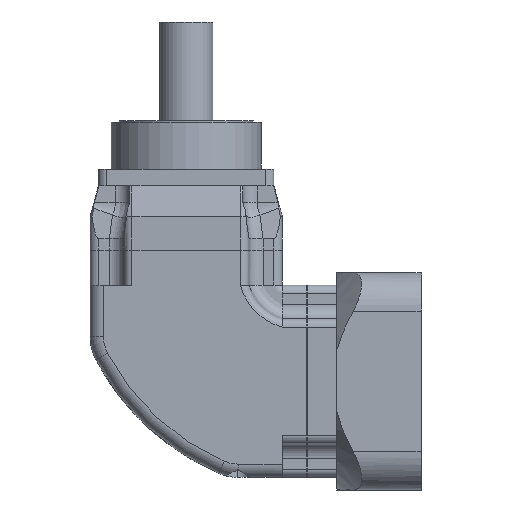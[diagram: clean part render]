
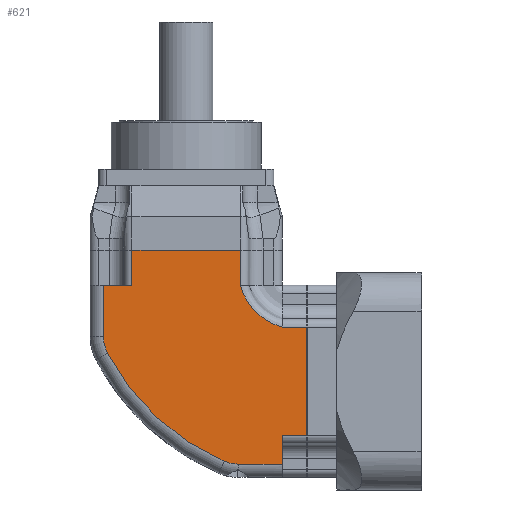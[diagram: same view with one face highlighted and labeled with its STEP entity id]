
A CAD part, left-side view. The second image highlights one B-rep face of the part: STEP entity #621.
In plain terms, the highlighted planar face has unit normal (-1, 0, 0).
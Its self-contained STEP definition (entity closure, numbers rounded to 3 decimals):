
#329 = ORIENTED_EDGE ( 'NONE', *, *, #3139, .T. ) ;
#508 = DIRECTION ( 'NONE',  ( 0., -1., 0. ) ) ;
#621 = ADVANCED_FACE ( 'NONE', ( #10091 ), #14825, .T. ) ;
#814 = VECTOR ( 'NONE', #6886, 1000. ) ;
#1027 = CARTESIAN_POINT ( 'NONE',  ( -57.5, -31.323, -49.5 ) ) ;
#1072 = AXIS2_PLACEMENT_3D ( 'NONE', #13883, #3243, #7968 ) ;
#1117 = VECTOR ( 'NONE', #2642, 1000. ) ;
#1134 = ORIENTED_EDGE ( 'NONE', *, *, #9071, .F. ) ;
#1262 = VERTEX_POINT ( 'NONE', #12909 ) ;
#1363 = ORIENTED_EDGE ( 'NONE', *, *, #10495, .T. ) ;
#1392 = LINE ( 'NONE', #8659, #14354 ) ;
#1724 = LINE ( 'NONE', #10929, #1117 ) ;
#1824 = CARTESIAN_POINT ( 'NONE',  ( -57.5, 46.98, 16.736 ) ) ;
#2222 = CARTESIAN_POINT ( 'NONE',  ( -57.5, -78.754, 82.728 ) ) ;
#2268 = EDGE_LOOP ( 'NONE', ( #329, #10573, #10448, #1134, #10564, #8989, #6929, #8007, #3159, #1363, #5794, #10586, #3164, #13653 ) ) ;
#2366 = VECTOR ( 'NONE', #14521, 1000. ) ;
#2379 = EDGE_CURVE ( 'NONE', #9644, #6700, #1392, .T. ) ;
#2642 = DIRECTION ( 'NONE',  ( 0., -1., 0. ) ) ;
#2711 = CARTESIAN_POINT ( 'NONE',  ( -57.5, -32.462, 78.5 ) ) ;
#2744 = CARTESIAN_POINT ( 'NONE',  ( -57.5, -72., -32.462 ) ) ;
#2762 = EDGE_CURVE ( 'NONE', #5364, #14716, #5934, .T. ) ;
#3014 = CARTESIAN_POINT ( 'NONE',  ( -57.5, -57.5, 32.462 ) ) ;
#3033 = CIRCLE ( 'NONE', #12693, 35. ) ;
#3089 = DIRECTION ( 'NONE',  ( 0., -1., 0. ) ) ;
#3139 = EDGE_CURVE ( 'NONE', #7314, #12417, #6968, .T. ) ;
#3159 = ORIENTED_EDGE ( 'NONE', *, *, #2762, .T. ) ;
#3164 = ORIENTED_EDGE ( 'NONE', *, *, #13604, .T. ) ;
#3243 = DIRECTION ( 'NONE',  ( -1., 0., 0. ) ) ;
#3380 = VERTEX_POINT ( 'NONE', #2711 ) ;
#3393 = CIRCLE ( 'NONE', #14791, 22. ) ;
#3471 = CARTESIAN_POINT ( 'NONE',  ( -57.5, -72., -32.462 ) ) ;
#3472 = CARTESIAN_POINT ( 'NONE',  ( -57.5, 32.462, 57.5 ) ) ;
#3622 = CARTESIAN_POINT ( 'NONE',  ( -57.5, -22.627, -47.709 ) ) ;
#4056 = DIRECTION ( 'NONE',  ( 0., -1., 0. ) ) ;
#4094 = CARTESIAN_POINT ( 'NONE',  ( -57.5, -66.33, 66.33 ) ) ;
#4127 = VERTEX_POINT ( 'NONE', #13822 ) ;
#4346 = CARTESIAN_POINT ( 'NONE',  ( -57.5, 57.5, 0. ) ) ;
#4443 = EDGE_CURVE ( 'NONE', #15088, #8653, #12783, .T. ) ;
#4688 = EDGE_CURVE ( 'NONE', #6700, #15011, #12868, .T. ) ;
#4757 = CARTESIAN_POINT ( 'NONE',  ( -57.5, 32.462, 57.5 ) ) ;
#5042 = LINE ( 'NONE', #9778, #2366 ) ;
#5306 = EDGE_CURVE ( 'NONE', #1262, #5364, #3393, .T. ) ;
#5364 = VERTEX_POINT ( 'NONE', #1824 ) ;
#5389 = LINE ( 'NONE', #10125, #9300 ) ;
#5718 = DIRECTION ( 'NONE',  ( 0., 1., 0. ) ) ;
#5794 = ORIENTED_EDGE ( 'NONE', *, *, #2379, .T. ) ;
#5934 = CIRCLE ( 'NONE', #13391, 142. ) ;
#6029 = VECTOR ( 'NONE', #4056, 1000. ) ;
#6700 = VERTEX_POINT ( 'NONE', #7747 ) ;
#6886 = DIRECTION ( 'NONE',  ( 0., 0., -1. ) ) ;
#6929 = ORIENTED_EDGE ( 'NONE', *, *, #14627, .T. ) ;
#6968 = LINE ( 'NONE', #12798, #9309 ) ;
#7011 = AXIS2_PLACEMENT_3D ( 'NONE', #4346, #11104, #508 ) ;
#7314 = VERTEX_POINT ( 'NONE', #14296 ) ;
#7568 = DIRECTION ( 'NONE',  ( 0., -1., 0. ) ) ;
#7728 = CARTESIAN_POINT ( 'NONE',  ( -57.5, 57.5, 57.5 ) ) ;
#7747 = CARTESIAN_POINT ( 'NONE',  ( -57.5, -57.5, -49.5 ) ) ;
#7968 = DIRECTION ( 'NONE',  ( 0., -1., 0. ) ) ;
#7973 = CIRCLE ( 'NONE', #1072, 22. ) ;
#8007 = ORIENTED_EDGE ( 'NONE', *, *, #5306, .T. ) ;
#8053 = VERTEX_POINT ( 'NONE', #3471 ) ;
#8479 = DIRECTION ( 'NONE',  ( 0., -1., 0. ) ) ;
#8559 = CARTESIAN_POINT ( 'NONE',  ( -57.5, 27.5, 26.96 ) ) ;
#8638 = LINE ( 'NONE', #2744, #6029 ) ;
#8653 = VERTEX_POINT ( 'NONE', #4757 ) ;
#8659 = CARTESIAN_POINT ( 'NONE',  ( -57.5, -84., -49.5 ) ) ;
#8989 = ORIENTED_EDGE ( 'NONE', *, *, #4443, .F. ) ;
#9071 = EDGE_CURVE ( 'NONE', #15102, #3380, #1724, .T. ) ;
#9300 = VECTOR ( 'NONE', #10193, 1000. ) ;
#9309 = VECTOR ( 'NONE', #5718, 1000. ) ;
#9436 = CARTESIAN_POINT ( 'NONE',  ( -57.5, -57.5, 0. ) ) ;
#9644 = VERTEX_POINT ( 'NONE', #1027 ) ;
#9778 = CARTESIAN_POINT ( 'NONE',  ( -57.5, 49.5, 0. ) ) ;
#10059 = CARTESIAN_POINT ( 'NONE',  ( -57.5, -32.462, 78.5 ) ) ;
#10061 = EDGE_CURVE ( 'NONE', #15102, #8653, #10441, .T. ) ;
#10091 = FACE_OUTER_BOUND ( 'NONE', #2268, .T. ) ;
#10125 = CARTESIAN_POINT ( 'NONE',  ( -57.5, -72., 0. ) ) ;
#10193 = DIRECTION ( 'NONE',  ( 0., 0., 1. ) ) ;
#10348 = CARTESIAN_POINT ( 'NONE',  ( -57.5, 49.5, 57.5 ) ) ;
#10441 = LINE ( 'NONE', #3472, #814 ) ;
#10448 = ORIENTED_EDGE ( 'NONE', *, *, #14616, .T. ) ;
#10495 = EDGE_CURVE ( 'NONE', #14716, #9644, #7973, .T. ) ;
#10564 = ORIENTED_EDGE ( 'NONE', *, *, #10061, .T. ) ;
#10573 = ORIENTED_EDGE ( 'NONE', *, *, #12130, .F. ) ;
#10586 = ORIENTED_EDGE ( 'NONE', *, *, #4688, .T. ) ;
#10597 = DIRECTION ( 'NONE',  ( 0., 0., 1. ) ) ;
#10732 = DIRECTION ( 'NONE',  ( -1., 0., 0. ) ) ;
#10929 = CARTESIAN_POINT ( 'NONE',  ( -57.5, 57.5, 78.5 ) ) ;
#11104 = DIRECTION ( 'NONE',  ( -1., 0., 0. ) ) ;
#11955 = DIRECTION ( 'NONE',  ( 0., 0., 1. ) ) ;
#12069 = DIRECTION ( 'NONE',  ( -1., 0., 0. ) ) ;
#12130 = EDGE_CURVE ( 'NONE', #4127, #12417, #3033, .T. ) ;
#12401 = DIRECTION ( 'NONE',  ( 0., -1., 0. ) ) ;
#12417 = VERTEX_POINT ( 'NONE', #3014 ) ;
#12470 = DIRECTION ( 'NONE',  ( -1., 0., 0. ) ) ;
#12693 = AXIS2_PLACEMENT_3D ( 'NONE', #4094, #12470, #12401 ) ;
#12750 = VECTOR ( 'NONE', #11955, 1000. ) ;
#12783 = LINE ( 'NONE', #7728, #15051 ) ;
#12798 = CARTESIAN_POINT ( 'NONE',  ( -57.5, -57.5, 32.462 ) ) ;
#12868 = LINE ( 'NONE', #9436, #13102 ) ;
#12909 = CARTESIAN_POINT ( 'NONE',  ( -57.5, 49.5, 26.96 ) ) ;
#13002 = DIRECTION ( 'NONE',  ( 0., -1., 0. ) ) ;
#13102 = VECTOR ( 'NONE', #10597, 1000. ) ;
#13391 = AXIS2_PLACEMENT_3D ( 'NONE', #2222, #10732, #13002 ) ;
#13403 = CARTESIAN_POINT ( 'NONE',  ( -57.5, -57.5, -32.462 ) ) ;
#13604 = EDGE_CURVE ( 'NONE', #15011, #8053, #8638, .T. ) ;
#13653 = ORIENTED_EDGE ( 'NONE', *, *, #15124, .T. ) ;
#13822 = CARTESIAN_POINT ( 'NONE',  ( -57.5, -32.462, 57.5 ) ) ;
#13883 = CARTESIAN_POINT ( 'NONE',  ( -57.5, -31.323, -27.5 ) ) ;
#14296 = CARTESIAN_POINT ( 'NONE',  ( -57.5, -72., 32.462 ) ) ;
#14354 = VECTOR ( 'NONE', #7568, 1000. ) ;
#14438 = LINE ( 'NONE', #10059, #12750 ) ;
#14521 = DIRECTION ( 'NONE',  ( 0., 0., -1. ) ) ;
#14616 = EDGE_CURVE ( 'NONE', #4127, #3380, #14438, .T. ) ;
#14627 = EDGE_CURVE ( 'NONE', #15088, #1262, #5042, .T. ) ;
#14716 = VERTEX_POINT ( 'NONE', #3622 ) ;
#14791 = AXIS2_PLACEMENT_3D ( 'NONE', #8559, #12069, #8479 ) ;
#14825 = PLANE ( 'NONE',  #7011 ) ;
#15011 = VERTEX_POINT ( 'NONE', #13403 ) ;
#15051 = VECTOR ( 'NONE', #3089, 1000. ) ;
#15079 = CARTESIAN_POINT ( 'NONE',  ( -57.5, 32.462, 78.5 ) ) ;
#15088 = VERTEX_POINT ( 'NONE', #10348 ) ;
#15102 = VERTEX_POINT ( 'NONE', #15079 ) ;
#15124 = EDGE_CURVE ( 'NONE', #8053, #7314, #5389, .T. ) ;
